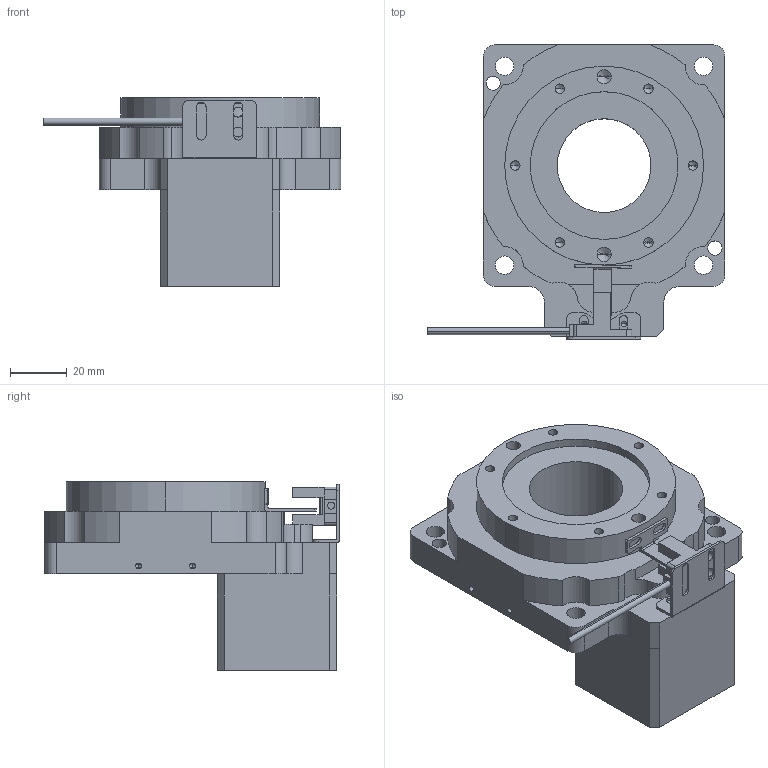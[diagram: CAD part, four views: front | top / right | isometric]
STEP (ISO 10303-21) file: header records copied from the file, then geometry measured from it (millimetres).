
FILE_DESCRIPTION (( 'STEP AP203' ), '1' );
FILE_NAME ('RTN85-18K-8-30-46-M4.STEP', '2024-05-21T09:54:59', ( '' ), ( '' ), 'SwSTEP 2.0', 'SolidWorks 2023', '' );
FILE_SCHEMA (( 'CONFIG_CONTROL_DESIGN' ));
Length unit declared in the file: millimetre
Products named in the file (1): RTN85-18K-8-30-46-M4
Bounding box: 104.79 x 103.55 x 66.5 mm (x, y, z)
Volume: 219310.2 mm3; surface area: 40337.1 mm2
Topology: 4 solids, 6 shells, 284 faces, 755 edges, 470 vertices
Faces by surface type: cylinder 128, plane 116, cone 40
Entity records: 8684 total; most frequent: DIRECTION 1543, CARTESIAN_POINT 1470, ORIENTED_EDGE 1430, EDGE_CURVE 715, AXIS2_PLACEMENT_3D 543, VERTEX_POINT 470, VECTOR 457, LINE 457
